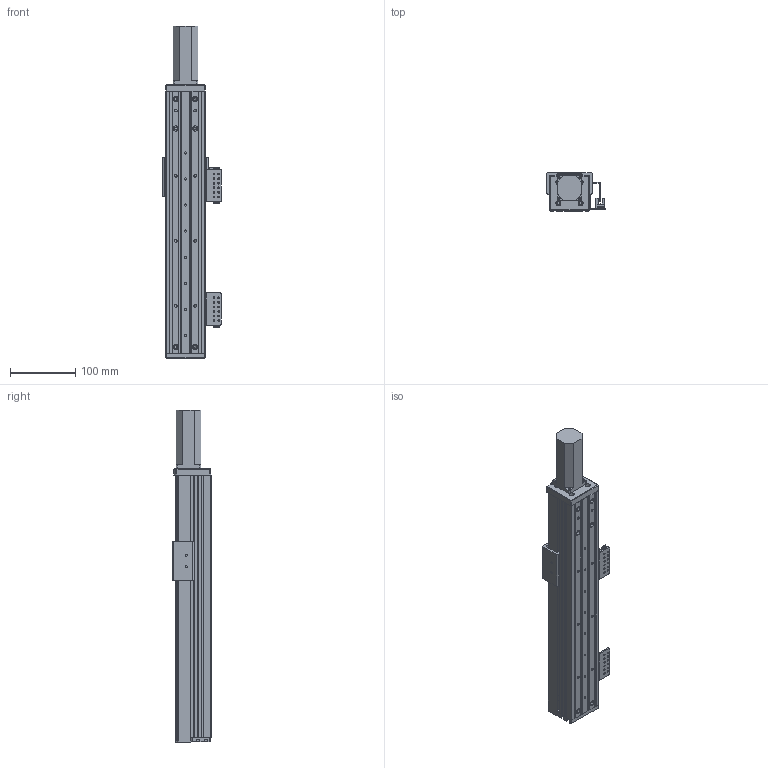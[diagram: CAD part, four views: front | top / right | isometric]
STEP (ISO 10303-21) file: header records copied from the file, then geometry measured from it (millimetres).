
FILE_DESCRIPTION (( 'STEP AP203' ), '1' );
FILE_NAME ('RY60FB-L1210-300-MK.SLDASM_200.step', '2021-02-22T08:25:29', ( '盈信电脑' ), ( '东莞市道滘镇水果街19号' ), 'SwSTEP 2.0', 'SolidWorks 2012', '' );
FILE_SCHEMA (( 'CONFIG_CONTROL_DESIGN' ));
Length unit declared in the file: millimetre
Products named in the file (14): RY60FB-L1210-300-MK.SLDASM_200; RY60FB-674嫖萇耀輸; RY60FB-感应器674光电安装座; 覜茼ん674; RY80俋离覜茼え; RY60FB綴裔啣; 侂狟100W; RY60FB前盖板100(M3); RY60FB-300-奻裔-MK_200; 滅袉蝶18-20; RY60FB-臏賑輸; 滅袉蝶18-10; RY60FB-300-菁釱-MK_200
Assembly tree (18 placements, depth 3):
  RY60FB-L1210-300-MK.SLDASM_200
    RY60FB-300-菁釱-MK_200
    RY60FB-臏賑輸
    滅袉蝶18-20  x2
    滅袉蝶18-10  x2
    RY60FB-300-奻裔-MK_200
    RY60FB前盖板100(M3)
    侂狟100W
    RY60FB綴裔啣
    RY60FB-674嫖萇耀輸
      RY60FB-感应器674光电安装座
      覜茼ん674  x2
    RY80俋离覜茼え
    RY60FB-674嫖萇耀輸
      RY60FB-感应器674光电安装座
      覜茼ん674
Bounding box: 90 x 58.5 x 510 mm (x, y, z)
Volume: 619477.3 mm3; surface area: 319465.6 mm2
Topology: 16 solids, 16 shells, 945 faces, 2602 edges, 1679 vertices
Faces by surface type: plane 474, cylinder 404, cone 67
Entity records: 26398 total; most frequent: CARTESIAN_POINT 4961, DIRECTION 4192, ORIENTED_EDGE 4104, EDGE_CURVE 2052, AXIS2_PLACEMENT_3D 1470, VERTEX_POINT 1335, LINE 1252, VECTOR 1252
